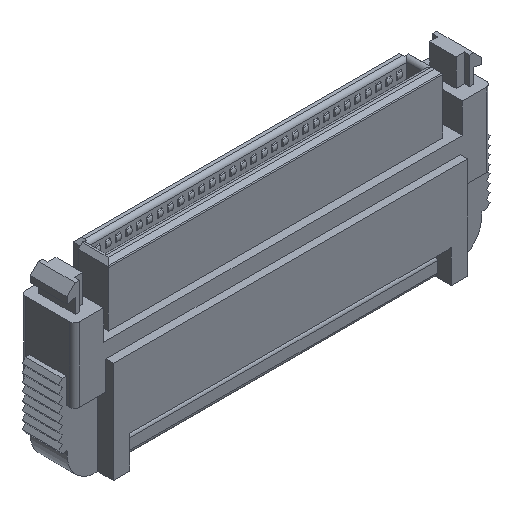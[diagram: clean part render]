
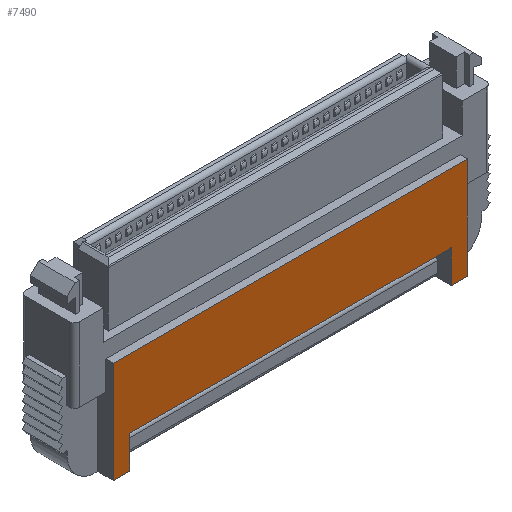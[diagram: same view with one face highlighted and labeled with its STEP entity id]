
A CAD part, isometric view. The second image highlights one B-rep face of the part: STEP entity #7490.
In plain terms, the highlighted planar face has unit normal (0, -1, 0).
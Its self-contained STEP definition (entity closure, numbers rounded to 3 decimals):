
#6780=CARTESIAN_POINT('',(20.436,-54.156,
7.113));
#6790=DIRECTION('',(0.,1.,0.));
#6800=DIRECTION('',(1.,0.,0.));
#6810=AXIS2_PLACEMENT_3D('',#6780,#6790,#6800);
#6820=PLANE('',#6810);
#6830=CARTESIAN_POINT('',(0.,-54.156,-2.7));
#6840=DIRECTION('',(1.,0.,0.));
#6850=VECTOR('',#6840,1.);
#6860=LINE('',#6830,#6850);
#6870=CARTESIAN_POINT('',(2.18,-54.156,
-2.7));
#6880=VERTEX_POINT('',#6870);
#6890=CARTESIAN_POINT('',(41.4,-54.156,
-2.7));
#6900=VERTEX_POINT('',#6890);
#6910=EDGE_CURVE('',#6880,#6900,#6860,.T.);
#6920=ORIENTED_EDGE('',*,*,#6910,.T.);
#6930=CARTESIAN_POINT('',(2.18,-54.156,
14.857));
#6940=DIRECTION('',(0.,0.,1.));
#6950=VECTOR('',#6940,1.);
#6960=LINE('',#6930,#6950);
#6970=CARTESIAN_POINT('',(2.18,-54.156,
-6.7));
#6980=VERTEX_POINT('',#6970);
#6990=EDGE_CURVE('',#6980,#6880,#6960,.T.);
#7000=ORIENTED_EDGE('',*,*,#6990,.T.);
#7010=CARTESIAN_POINT('',(30.705,-54.156,-6.7));
#7020=DIRECTION('',(-1.,0.,0.));
#7030=VECTOR('',#7020,1.);
#7040=LINE('',#7010,#7030);
#7050=CARTESIAN_POINT('',(0.175,-54.156,-6.7));
#7060=VERTEX_POINT('',#7050);
#7070=EDGE_CURVE('',#6980,#7060,#7040,.T.);
#7080=ORIENTED_EDGE('',*,*,#7070,.F.);
#7090=CARTESIAN_POINT('',(0.175,-54.156,
0.));
#7100=DIRECTION('',(0.,0.,1.));
#7110=VECTOR('',#7100,1.);
#7120=LINE('',#7090,#7110);
#7130=CARTESIAN_POINT('',(0.175,-54.156,
5.7));
#7140=VERTEX_POINT('',#7130);
#7150=EDGE_CURVE('',#7060,#7140,#7120,.T.);
#7160=ORIENTED_EDGE('',*,*,#7150,.F.);
#7170=CARTESIAN_POINT('',(-123.523,-54.156,5.7
));
#7180=DIRECTION('',(-1.,0.,0.));
#7190=VECTOR('',#7180,1.);
#7200=LINE('',#7170,#7190);
#7210=CARTESIAN_POINT('',(43.405,-54.156,
5.7));
#7220=VERTEX_POINT('',#7210);
#7230=EDGE_CURVE('',#7220,#7140,#7200,.T.);
#7240=ORIENTED_EDGE('',*,*,#7230,.T.);
#7250=CARTESIAN_POINT('',(43.405,-54.156,
-2.7));
#7260=DIRECTION('',(0.,0.,1.));
#7270=VECTOR('',#7260,1.);
#7280=LINE('',#7250,#7270);
#7290=CARTESIAN_POINT('',(43.405,-54.156,-6.7));
#7300=VERTEX_POINT('',#7290);
#7310=EDGE_CURVE('',#7300,#7220,#7280,.T.);
#7320=ORIENTED_EDGE('',*,*,#7310,.T.);
#7330=CARTESIAN_POINT('',(43.405,-54.156,-6.7));
#7340=DIRECTION('',(-1.,0.,0.));
#7350=VECTOR('',#7340,1.);
#7360=LINE('',#7330,#7350);
#7370=CARTESIAN_POINT('',(41.4,-54.156,-6.7));
#7380=VERTEX_POINT('',#7370);
#7390=EDGE_CURVE('',#7300,#7380,#7360,.T.);
#7400=ORIENTED_EDGE('',*,*,#7390,.F.);
#7410=CARTESIAN_POINT('',(41.4,-54.156,
14.857));
#7420=DIRECTION('',(0.,0.,-1.));
#7430=VECTOR('',#7420,1.);
#7440=LINE('',#7410,#7430);
#7450=EDGE_CURVE('',#6900,#7380,#7440,.T.);
#7460=ORIENTED_EDGE('',*,*,#7450,.T.);
#7470=EDGE_LOOP('',(#7460,#7400,#7320,#7240,#7160,#7080,#7000,#6920));
#7480=FACE_OUTER_BOUND('',#7470,.T.);
#7490=ADVANCED_FACE('',(#7480),#6820,.F.);
